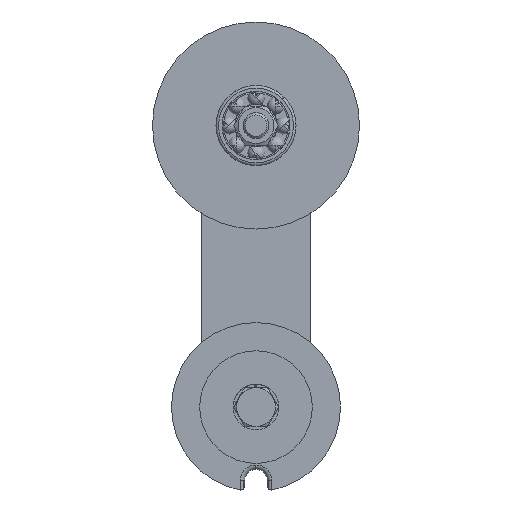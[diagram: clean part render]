
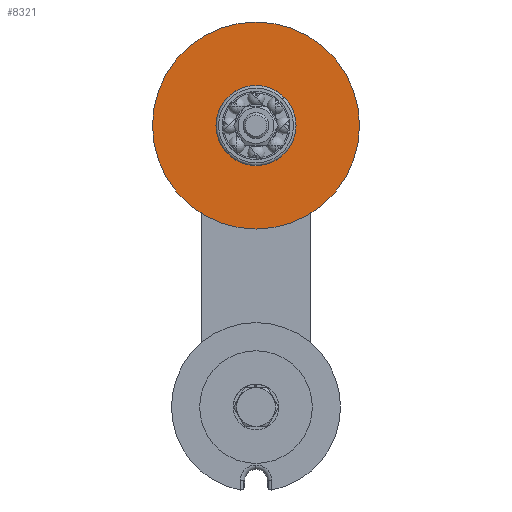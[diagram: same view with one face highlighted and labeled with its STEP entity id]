
A CAD part, front view. The second image highlights one B-rep face of the part: STEP entity #8321.
In plain terms, the highlighted planar face has unit normal (0, -1, 0) as drawn and (1, 0, 0) by its records, which use the part's own axes.
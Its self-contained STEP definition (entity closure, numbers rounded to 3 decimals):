
#7913=CARTESIAN_POINT('',(46.552,0.0,39.86));
#7914=VERTEX_POINT('',#7913);
#7921=CARTESIAN_POINT('',(46.552,0.,-55.74));
#7922=VERTEX_POINT('',#7921);
#7923=CARTESIAN_POINT('',(46.552,0.0,-7.94));
#7924=DIRECTION('',(-1.0,0.0,0.0));
#7925=DIRECTION('',(0.0,0.0,1.0));
#7926=AXIS2_PLACEMENT_3D('',#7923,#7924,#7925);
#7927=CIRCLE('',#7926,47.8);
#7928=EDGE_CURVE('',#7914,#7922,#7927,.T.);
#8032=CARTESIAN_POINT('',(46.552,0.,10.56));
#8033=VERTEX_POINT('',#8032);
#8049=CARTESIAN_POINT('',(46.552,0.,-26.44));
#8050=VERTEX_POINT('',#8049);
#8057=CARTESIAN_POINT('',(46.552,0.0,-7.94));
#8058=DIRECTION('',(-1.0,0.0,0.0));
#8059=DIRECTION('',(0.0,0.0,1.0));
#8060=AXIS2_PLACEMENT_3D('',#8057,#8058,#8059);
#8061=CIRCLE('',#8060,18.5);
#8062=EDGE_CURVE('',#8033,#8050,#8061,.T.);
#8159=CARTESIAN_POINT('',(46.552,0.0,-7.94));
#8160=DIRECTION('',(-1.0,0.0,0.0));
#8161=DIRECTION('',(0.0,0.0,1.0));
#8162=AXIS2_PLACEMENT_3D('',#8159,#8160,#8161);
#8163=CIRCLE('',#8162,18.5);
#8164=EDGE_CURVE('',#8050,#8033,#8163,.T.);
#8268=CARTESIAN_POINT('',(46.552,0.0,-7.94));
#8269=DIRECTION('',(-1.0,0.0,0.0));
#8270=DIRECTION('',(0.0,0.0,1.0));
#8271=AXIS2_PLACEMENT_3D('',#8268,#8269,#8270);
#8272=CIRCLE('',#8271,47.8);
#8273=EDGE_CURVE('',#7922,#7914,#8272,.T.);
#8308=CARTESIAN_POINT('',(46.552,0.0,15.96));
#8309=DIRECTION('',(1.0,0.0,0.0));
#8310=DIRECTION('',(0.0,0.0,-1.0));
#8311=AXIS2_PLACEMENT_3D('',#8308,#8309,#8310);
#8312=PLANE('',#8311);
#8313=ORIENTED_EDGE('',*,*,#7928,.F.);
#8314=ORIENTED_EDGE('',*,*,#8273,.F.);
#8315=EDGE_LOOP('',(#8313,#8314));
#8316=FACE_OUTER_BOUND('',#8315,.T.);
#8317=ORIENTED_EDGE('',*,*,#8164,.T.);
#8318=ORIENTED_EDGE('',*,*,#8062,.T.);
#8319=EDGE_LOOP('',(#8317,#8318));
#8320=FACE_BOUND('',#8319,.T.);
#8321=ADVANCED_FACE('',(#8316,#8320),#8312,.T.);
